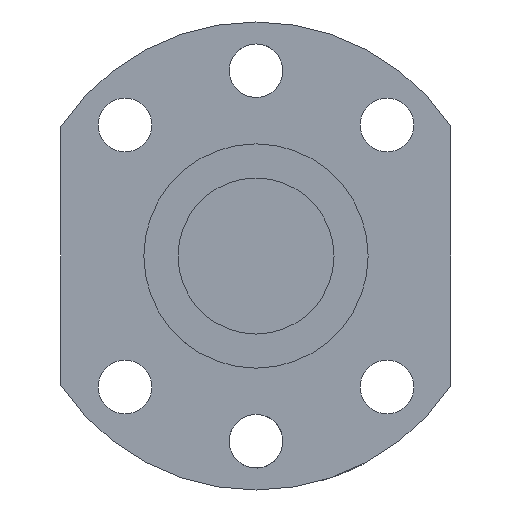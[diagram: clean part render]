
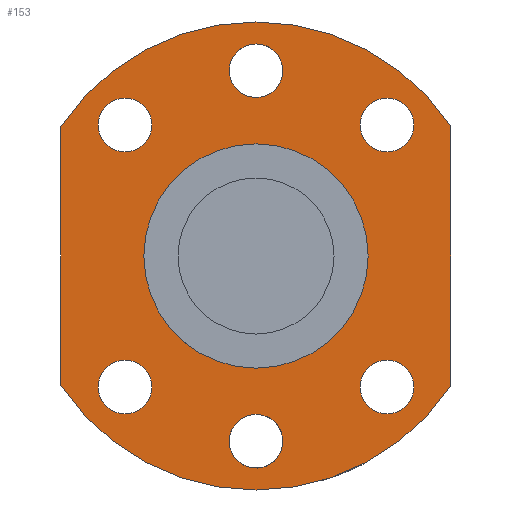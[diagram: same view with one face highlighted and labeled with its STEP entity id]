
A CAD part, front view. The second image highlights one B-rep face of the part: STEP entity #153.
In plain terms, the highlighted planar face has unit normal (0, -1, 0).
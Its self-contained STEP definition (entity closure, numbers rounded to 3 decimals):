
#109=PLANE('',#606);
#130=LINE('',#959,#140);
#132=LINE('',#962,#142);
#140=VECTOR('',#685,1.);
#142=VECTOR('',#689,1.);
#153=ADVANCED_FACE('',(#216,#217,#218,#219,#220,#221,#222,#223),#109,.F.);
#216=FACE_BOUND('',#288,.T.);
#217=FACE_BOUND('',#289,.T.);
#218=FACE_BOUND('',#290,.T.);
#219=FACE_BOUND('',#291,.T.);
#220=FACE_BOUND('',#292,.T.);
#221=FACE_BOUND('',#293,.T.);
#222=FACE_BOUND('',#294,.T.);
#223=FACE_BOUND('',#295,.T.);
#288=EDGE_LOOP('',(#382));
#289=EDGE_LOOP('',(#383));
#290=EDGE_LOOP('',(#384));
#291=EDGE_LOOP('',(#385));
#292=EDGE_LOOP('',(#386));
#293=EDGE_LOOP('',(#387));
#294=EDGE_LOOP('',(#388));
#295=EDGE_LOOP('',(#389,#390,#391,#392));
#382=ORIENTED_EDGE('',*,*,#516,.F.);
#383=ORIENTED_EDGE('',*,*,#517,.F.);
#384=ORIENTED_EDGE('',*,*,#518,.F.);
#385=ORIENTED_EDGE('',*,*,#519,.T.);
#386=ORIENTED_EDGE('',*,*,#520,.T.);
#387=ORIENTED_EDGE('',*,*,#521,.T.);
#388=ORIENTED_EDGE('',*,*,#494,.T.);
#389=ORIENTED_EDGE('',*,*,#501,.F.);
#390=ORIENTED_EDGE('',*,*,#507,.F.);
#391=ORIENTED_EDGE('',*,*,#489,.F.);
#392=ORIENTED_EDGE('',*,*,#505,.F.);
#445=VERTEX_POINT('',#853);
#446=VERTEX_POINT('',#854);
#450=VERTEX_POINT('',#921);
#455=VERTEX_POINT('',#951);
#456=VERTEX_POINT('',#952);
#466=VERTEX_POINT('',#981);
#467=VERTEX_POINT('',#983);
#468=VERTEX_POINT('',#985);
#469=VERTEX_POINT('',#987);
#470=VERTEX_POINT('',#989);
#471=VERTEX_POINT('',#991);
#489=EDGE_CURVE('',#445,#446,#538,.T.);
#494=EDGE_CURVE('',#450,#450,#540,.T.);
#501=EDGE_CURVE('',#455,#456,#544,.T.);
#505=EDGE_CURVE('',#456,#445,#130,.T.);
#507=EDGE_CURVE('',#446,#455,#132,.T.);
#516=EDGE_CURVE('',#466,#466,#553,.T.);
#517=EDGE_CURVE('',#467,#467,#554,.T.);
#518=EDGE_CURVE('',#468,#468,#555,.T.);
#519=EDGE_CURVE('',#469,#469,#556,.T.);
#520=EDGE_CURVE('',#470,#470,#557,.T.);
#521=EDGE_CURVE('',#471,#471,#558,.T.);
#538=CIRCLE('',#577,24.);
#540=CIRCLE('',#580,11.5);
#544=CIRCLE('',#587,24.);
#553=CIRCLE('',#600,2.75);
#554=CIRCLE('',#601,2.75);
#555=CIRCLE('',#602,2.75);
#556=CIRCLE('',#603,2.75);
#557=CIRCLE('',#604,2.75);
#558=CIRCLE('',#605,2.75);
#577=AXIS2_PLACEMENT_3D('',#852,#653,#654);
#580=AXIS2_PLACEMENT_3D('',#920,#661,#662);
#587=AXIS2_PLACEMENT_3D('',#950,#677,#678);
#600=AXIS2_PLACEMENT_3D('',#980,#709,#710);
#601=AXIS2_PLACEMENT_3D('',#982,#711,#712);
#602=AXIS2_PLACEMENT_3D('',#984,#713,#714);
#603=AXIS2_PLACEMENT_3D('',#986,#715,#716);
#604=AXIS2_PLACEMENT_3D('',#988,#717,#718);
#605=AXIS2_PLACEMENT_3D('',#990,#719,#720);
#606=AXIS2_PLACEMENT_3D('',#992,#721,#722);
#653=DIRECTION('',(0.,1.,0.));
#654=DIRECTION('',(1.,0.,0.));
#661=DIRECTION('',(0.,1.,0.));
#662=DIRECTION('',(0.,0.,1.));
#677=DIRECTION('',(0.,1.,0.));
#678=DIRECTION('',(1.,0.,0.));
#685=DIRECTION('',(0.,0.,-1.));
#689=DIRECTION('',(0.,0.,1.));
#709=DIRECTION('',(0.,-1.,0.));
#710=DIRECTION('',(-1.,0.,0.));
#711=DIRECTION('',(0.,-1.,0.));
#712=DIRECTION('',(-0.707,0.,-0.707));
#713=DIRECTION('',(0.,-1.,0.));
#714=DIRECTION('',(0.,0.,-1.));
#715=DIRECTION('',(0.,1.,0.));
#716=DIRECTION('',(-1.,0.,0.));
#717=DIRECTION('',(0.,1.,0.));
#718=DIRECTION('',(-0.707,0.,0.707));
#719=DIRECTION('',(0.,1.,0.));
#720=DIRECTION('',(0.,0.,1.));
#721=DIRECTION('',(0.,1.,0.));
#722=DIRECTION('',(0.,0.,-1.));
#852=CARTESIAN_POINT('',(0.,-22.5,0.));
#853=CARTESIAN_POINT('',(20.,-22.5,-13.266));
#854=CARTESIAN_POINT('',(-20.,-22.5,-13.266));
#920=CARTESIAN_POINT('',(0.,-22.5,0.));
#921=CARTESIAN_POINT('',(0.,-22.5,11.5));
#950=CARTESIAN_POINT('',(0.,-22.5,0.));
#951=CARTESIAN_POINT('',(-20.,-22.5,13.266));
#952=CARTESIAN_POINT('',(20.,-22.5,13.266));
#959=CARTESIAN_POINT('',(20.,-22.5,13.266));
#962=CARTESIAN_POINT('',(-20.,-22.5,-13.266));
#980=CARTESIAN_POINT('',(13.435,-22.5,13.435));
#981=CARTESIAN_POINT('',(10.685,-22.5,13.435));
#982=CARTESIAN_POINT('',(0.,-22.5,19.));
#983=CARTESIAN_POINT('',(-1.945,-22.5,17.055));
#984=CARTESIAN_POINT('',(-13.435,-22.5,13.435));
#985=CARTESIAN_POINT('',(-13.435,-22.5,10.685));
#986=CARTESIAN_POINT('',(13.435,-22.5,-13.435));
#987=CARTESIAN_POINT('',(10.685,-22.5,-13.435));
#988=CARTESIAN_POINT('',(0.,-22.5,-19.));
#989=CARTESIAN_POINT('',(-1.945,-22.5,-17.055));
#990=CARTESIAN_POINT('',(-13.435,-22.5,-13.435));
#991=CARTESIAN_POINT('',(-13.435,-22.5,-10.685));
#992=CARTESIAN_POINT('',(0.,-22.5,0.));
